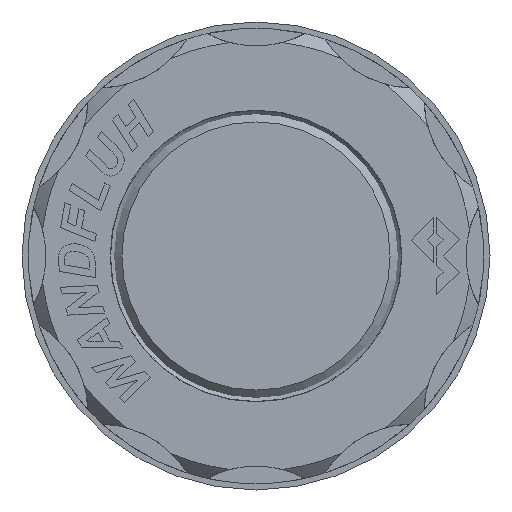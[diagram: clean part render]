
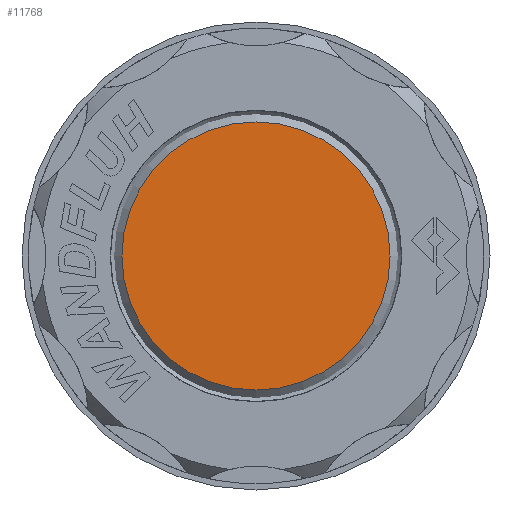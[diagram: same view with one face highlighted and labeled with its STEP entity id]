
A CAD part, left-side view. The second image highlights one B-rep face of the part: STEP entity #11768.
In plain terms, the highlighted planar face has unit normal (-1, 0, 0).
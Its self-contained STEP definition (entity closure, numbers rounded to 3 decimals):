
#301 = AXIS2_PLACEMENT_3D ( 'NONE', #7423, #17922, #8943 ) ;
#1099 = CIRCLE ( 'NONE', #301, 10.6 ) ;
#1651 = PLANE ( 'NONE',  #2604 ) ;
#2604 = AXIS2_PLACEMENT_3D ( 'NONE', #12142, #3222, #13665 ) ;
#3222 = DIRECTION ( 'NONE',  ( 1., 0., 0. ) ) ;
#6446 = ORIENTED_EDGE ( 'NONE', *, *, #7797, .T. ) ;
#7423 = CARTESIAN_POINT ( 'NONE',  ( -83.5, 0., 0. ) ) ;
#7797 = EDGE_CURVE ( 'NONE', #14035, #14035, #1099, .T. ) ;
#8943 = DIRECTION ( 'NONE',  ( 0., 0., 1. ) ) ;
#9420 = CARTESIAN_POINT ( 'NONE',  ( -83.5, 0., 10.6 ) ) ;
#9539 = EDGE_LOOP ( 'NONE', ( #6446 ) ) ;
#11768 = ADVANCED_FACE ( 'NONE', ( #14700 ), #1651, .F. ) ;
#12142 = CARTESIAN_POINT ( 'NONE',  ( -83.5, -11.5, 0. ) ) ;
#13665 = DIRECTION ( 'NONE',  ( 0., 0., 1. ) ) ;
#14035 = VERTEX_POINT ( 'NONE', #9420 ) ;
#14700 = FACE_OUTER_BOUND ( 'NONE', #9539, .T. ) ;
#17922 = DIRECTION ( 'NONE',  ( -1., 0., 0. ) ) ;
